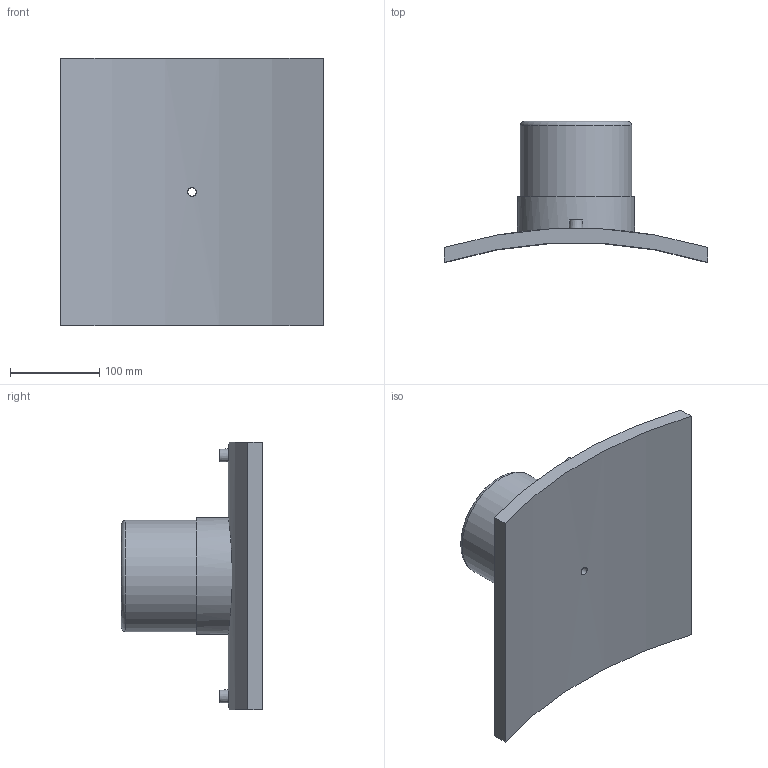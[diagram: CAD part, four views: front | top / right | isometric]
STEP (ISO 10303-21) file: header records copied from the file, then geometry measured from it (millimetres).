
FILE_DESCRIPTION(/* description */ ('PLASSON BRANCH SADDLE 1000x125'),/* implementation_level */ '2;1');
FILE_NAME(/* name */ 'C:\Dropbox\99-16-3568-Processing\ElectroFusion Fittings\495803\4958031000125T.ipt.stp',/* time_stamp */ '2021-02-25T09:42:50+02:00',/* author */ ('KIM'),/* organization */ (''),/* preprocessor_version */ 'ST-DEVELOPER v17.2',/* originating_system */ 'Autodesk Inventor 2019',/* authorisation */ '');
FILE_SCHEMA (('AUTOMOTIVE_DESIGN { 1 0 10303 214 3 1 1 }'));
Length unit declared in the file: millimetre
Products named in the file (1): 4958031000125T
Bounding box: 295 x 158.25 x 300 mm (x, y, z)
Volume: 2025683.8 mm3; surface area: 291582.1 mm2
Topology: 1 solids, 1 shells, 29 faces, 60 edges, 43 vertices
Faces by surface type: plane 13, cylinder 12, torus 2, cone 2
Full cylindrical faces by diameter (mm): 4 x2, 9.6 x1, 10 x2, 16 x1, 100 x1, 125 x1, 131.25 x1
Entity records: 1086 total; most frequent: CARTESIAN_POINT 400, DIRECTION 139, ORIENTED_EDGE 120, EDGE_CURVE 60, AXIS2_PLACEMENT_3D 60, VERTEX_POINT 43, EDGE_LOOP 41, CIRCLE 30
